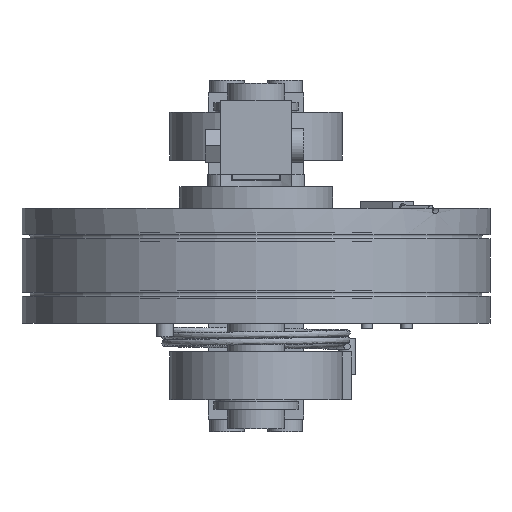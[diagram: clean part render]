
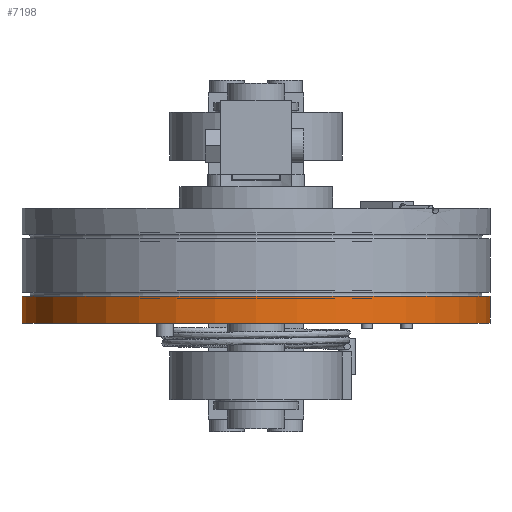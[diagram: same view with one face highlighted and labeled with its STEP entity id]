
A CAD part, front view. The second image highlights one B-rep face of the part: STEP entity #7198.
In plain terms, the highlighted cylindrical face has radius 24.4 mm (diameter 48.8 mm), a full revolution.
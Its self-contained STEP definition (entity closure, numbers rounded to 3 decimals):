
#6651 = TOROIDAL_SURFACE('',#6652,24.,0.45);
#6652 = AXIS2_PLACEMENT_3D('',#6653,#6654,#6655);
#6653 = CARTESIAN_POINT('',(0.,0.,0.));
#6654 = DIRECTION('',(0.,0.,1.));
#6655 = DIRECTION('',(1.,0.,-0.));
#6905 = VERTEX_POINT('',#6906);
#6906 = CARTESIAN_POINT('',(24.4,0.,-0.206));
#6928 = EDGE_CURVE('',#6905,#6905,#6929,.T.);
#6929 = SURFACE_CURVE('',#6930,(#6935,#6942),.PCURVE_S1.);
#6930 = CIRCLE('',#6931,24.4);
#6931 = AXIS2_PLACEMENT_3D('',#6932,#6933,#6934);
#6932 = CARTESIAN_POINT('',(0.,0.,-0.206));
#6933 = DIRECTION('',(0.,0.,1.));
#6934 = DIRECTION('',(0.,-1.,0.));
#6935 = PCURVE('',#6651,#6936);
#6936 = DEFINITIONAL_REPRESENTATION('',(#6937),#6941);
#6937 = LINE('',#6938,#6939);
#6938 = CARTESIAN_POINT('',(-1.571,5.807));
#6939 = VECTOR('',#6940,1.);
#6940 = DIRECTION('',(1.,0.));
#6941 = ( GEOMETRIC_REPRESENTATION_CONTEXT(2) 
PARAMETRIC_REPRESENTATION_CONTEXT() REPRESENTATION_CONTEXT('2D SPACE',''
  ) );
#6942 = PCURVE('',#6943,#6948);
#6943 = CYLINDRICAL_SURFACE('',#6944,24.4);
#6944 = AXIS2_PLACEMENT_3D('',#6945,#6946,#6947);
#6945 = CARTESIAN_POINT('',(0.,0.,-3.));
#6946 = DIRECTION('',(0.,0.,1.));
#6947 = DIRECTION('',(1.,0.,-0.));
#6948 = DEFINITIONAL_REPRESENTATION('',(#6949),#6953);
#6949 = LINE('',#6950,#6951);
#6950 = CARTESIAN_POINT('',(-1.571,2.794));
#6951 = VECTOR('',#6952,1.);
#6952 = DIRECTION('',(1.,0.));
#6953 = ( GEOMETRIC_REPRESENTATION_CONTEXT(2) 
PARAMETRIC_REPRESENTATION_CONTEXT() REPRESENTATION_CONTEXT('2D SPACE',''
  ) );
#7198 = ADVANCED_FACE('',(#7199),#6943,.T.);
#7199 = FACE_BOUND('',#7200,.T.);
#7200 = EDGE_LOOP('',(#7201,#7202,#7225,#7252));
#7201 = ORIENTED_EDGE('',*,*,#6928,.F.);
#7202 = ORIENTED_EDGE('',*,*,#7203,.F.);
#7203 = EDGE_CURVE('',#7204,#6905,#7206,.T.);
#7204 = VERTEX_POINT('',#7205);
#7205 = CARTESIAN_POINT('',(24.4,0.,-3.));
#7206 = SEAM_CURVE('',#7207,(#7211,#7218),.PCURVE_S1.);
#7207 = LINE('',#7208,#7209);
#7208 = CARTESIAN_POINT('',(24.4,0.,-3.));
#7209 = VECTOR('',#7210,1.);
#7210 = DIRECTION('',(0.,0.,1.));
#7211 = PCURVE('',#6943,#7212);
#7212 = DEFINITIONAL_REPRESENTATION('',(#7213),#7217);
#7213 = LINE('',#7214,#7215);
#7214 = CARTESIAN_POINT('',(6.283,-0.));
#7215 = VECTOR('',#7216,1.);
#7216 = DIRECTION('',(0.,1.));
#7217 = ( GEOMETRIC_REPRESENTATION_CONTEXT(2) 
PARAMETRIC_REPRESENTATION_CONTEXT() REPRESENTATION_CONTEXT('2D SPACE',''
  ) );
#7218 = PCURVE('',#6943,#7219);
#7219 = DEFINITIONAL_REPRESENTATION('',(#7220),#7224);
#7220 = LINE('',#7221,#7222);
#7221 = CARTESIAN_POINT('',(0.,-0.));
#7222 = VECTOR('',#7223,1.);
#7223 = DIRECTION('',(0.,1.));
#7224 = ( GEOMETRIC_REPRESENTATION_CONTEXT(2) 
PARAMETRIC_REPRESENTATION_CONTEXT() REPRESENTATION_CONTEXT('2D SPACE',''
  ) );
#7225 = ORIENTED_EDGE('',*,*,#7226,.T.);
#7226 = EDGE_CURVE('',#7204,#7204,#7227,.T.);
#7227 = SURFACE_CURVE('',#7228,(#7233,#7240),.PCURVE_S1.);
#7228 = CIRCLE('',#7229,24.4);
#7229 = AXIS2_PLACEMENT_3D('',#7230,#7231,#7232);
#7230 = CARTESIAN_POINT('',(0.,0.,-3.));
#7231 = DIRECTION('',(0.,0.,1.));
#7232 = DIRECTION('',(1.,0.,-0.));
#7233 = PCURVE('',#6943,#7234);
#7234 = DEFINITIONAL_REPRESENTATION('',(#7235),#7239);
#7235 = LINE('',#7236,#7237);
#7236 = CARTESIAN_POINT('',(0.,0.));
#7237 = VECTOR('',#7238,1.);
#7238 = DIRECTION('',(1.,0.));
#7239 = ( GEOMETRIC_REPRESENTATION_CONTEXT(2) 
PARAMETRIC_REPRESENTATION_CONTEXT() REPRESENTATION_CONTEXT('2D SPACE',''
  ) );
#7240 = PCURVE('',#7241,#7246);
#7241 = PLANE('',#7242);
#7242 = AXIS2_PLACEMENT_3D('',#7243,#7244,#7245);
#7243 = CARTESIAN_POINT('',(0.,0.,-3.));
#7244 = DIRECTION('',(0.,0.,1.));
#7245 = DIRECTION('',(1.,0.,-0.));
#7246 = DEFINITIONAL_REPRESENTATION('',(#7247),#7251);
#7247 = CIRCLE('',#7248,24.4);
#7248 = AXIS2_PLACEMENT_2D('',#7249,#7250);
#7249 = CARTESIAN_POINT('',(0.,0.));
#7250 = DIRECTION('',(1.,0.));
#7251 = ( GEOMETRIC_REPRESENTATION_CONTEXT(2) 
PARAMETRIC_REPRESENTATION_CONTEXT() REPRESENTATION_CONTEXT('2D SPACE',''
  ) );
#7252 = ORIENTED_EDGE('',*,*,#7203,.T.);
